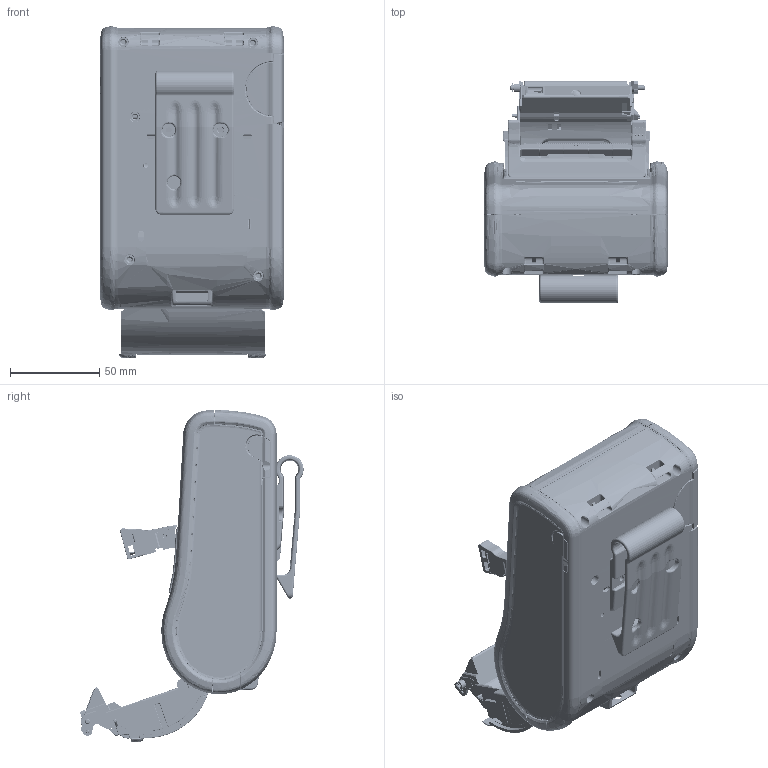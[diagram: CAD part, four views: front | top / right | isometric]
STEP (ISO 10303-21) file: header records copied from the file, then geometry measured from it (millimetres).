
FILE_DESCRIPTION((''),'2;1');
FILE_NAME('PEELER_GAIKEI_OPEN_SW0001','2025-02-27T10:01:43',('0092109'),(''),'CREO PARAMETRIC BY PTC INC, 2022281','CREO PARAMETRIC BY PTC INC, 2022281','');
FILE_SCHEMA(('AUTOMOTIVE_DESIGN { 1 0 10303 214 1 1 1 1 }'));
Length unit declared in the file: millimetre
Products named in the file (1): PEELER_GAIKEI_OPEN_SW0001
Bounding box: 102.73 x 125.17 x 186.12 mm (x, y, z)
Surface area: 244708.6 mm2 (no closed solid volume)
Topology: 0 solids, 105 shells, 8513 faces, 25740 edges, 16816 vertices
Faces by surface type: plane 3327, cylinder 2605, bspline 1755, torus 382, sphere 195, cone 175, extrusion 68, revolution 6
Entity records: 438539 total; most frequent: CARTESIAN_POINT 168900, ORIENTED_EDGE 46122, DIRECTION 38460, EDGE_CURVE 25703, VERTEX_POINT 16818, VECTOR 13184, LINE 13116, AXIS2_PLACEMENT_3D 12635
